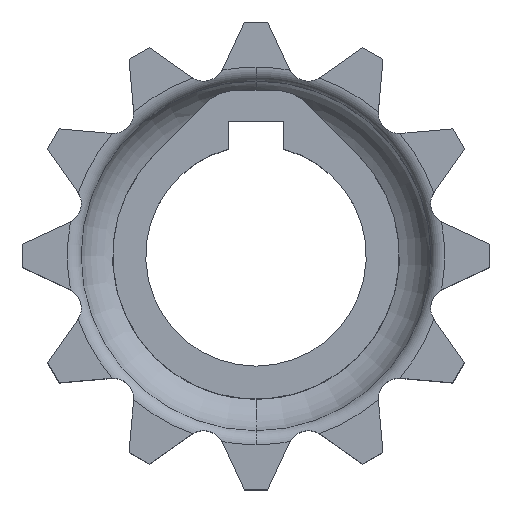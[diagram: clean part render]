
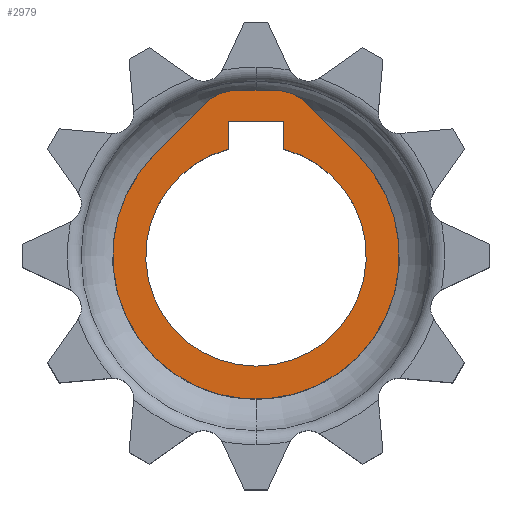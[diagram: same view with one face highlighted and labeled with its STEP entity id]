
A CAD part, top view. The second image highlights one B-rep face of the part: STEP entity #2979.
In plain terms, the highlighted planar face has unit normal (0, 0, 1).
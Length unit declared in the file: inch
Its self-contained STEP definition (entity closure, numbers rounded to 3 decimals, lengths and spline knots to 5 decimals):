
#914=CARTESIAN_POINT('',(-0.0875,0.55,0.325));
#915=DIRECTION('',(0.,0.,1.));
#916=DIRECTION('',(0.,1.,0.));
#917=AXIS2_PLACEMENT_3D('',#914,#915,#916);
#919=DIRECTION('',(-1.,0.,0.));
#920=VECTOR('',#919,0.175);
#921=CARTESIAN_POINT('',(0.0875,0.75,0.325));
#922=LINE('',#921,#920);
#923=CARTESIAN_POINT('',(0.0875,0.55,0.325));
#924=DIRECTION('',(0.,0.,1.));
#925=DIRECTION('',(0.709,0.705,0.));
#926=AXIS2_PLACEMENT_3D('',#923,#924,#925);
#928=DIRECTION('',(-0.705,0.709,0.));
#929=VECTOR('',#928,0.32811);
#930=CARTESIAN_POINT('',(0.46071,0.45852,0.325));
#931=LINE('',#930,#929);
#932=CARTESIAN_POINT('',(0.,0.,0.325));
#933=DIRECTION('',(0.,0.,1.));
#934=DIRECTION('',(-0.709,0.705,0.));
#935=AXIS2_PLACEMENT_3D('',#932,#933,#934);
#937=DIRECTION('',(-0.705,-0.709,0.));
#938=VECTOR('',#937,0.32811);
#939=CARTESIAN_POINT('',(-0.22926,0.69108,0.325));
#940=LINE('',#939,#938);
#941=CARTESIAN_POINT('',(0.,0.,0.325));
#942=DIRECTION('',(0.,0.,1.));
#943=DIRECTION('',(-0.25,0.968,0.));
#944=AXIS2_PLACEMENT_3D('',#941,#942,#943);
#946=DIRECTION('',(0.,1.,0.));
#947=VECTOR('',#946,0.125);
#948=CARTESIAN_POINT('',(0.125,0.48412,0.325));
#949=LINE('',#948,#947);
#950=DIRECTION('',(-1.,0.,0.));
#951=VECTOR('',#950,0.25);
#952=CARTESIAN_POINT('',(0.125,0.60912,0.325));
#953=LINE('',#952,#951);
#954=DIRECTION('',(0.,-1.,0.));
#955=VECTOR('',#954,0.125);
#956=CARTESIAN_POINT('',(-0.125,0.60912,0.325));
#957=LINE('',#956,#955);
#1921=CARTESIAN_POINT('',(-0.0875,0.75,0.325));
#1922=CARTESIAN_POINT('',(-0.22926,0.69108,0.325));
#1923=VERTEX_POINT('',#1921);
#1924=VERTEX_POINT('',#1922);
#1925=CARTESIAN_POINT('',(-0.46071,0.45852,0.325));
#1926=VERTEX_POINT('',#1925);
#1927=CARTESIAN_POINT('',(0.46071,0.45852,0.325));
#1928=VERTEX_POINT('',#1927);
#1929=CARTESIAN_POINT('',(0.22926,0.69108,0.325));
#1930=VERTEX_POINT('',#1929);
#1931=CARTESIAN_POINT('',(0.0875,0.75,0.325));
#1932=VERTEX_POINT('',#1931);
#1961=CARTESIAN_POINT('',(-0.125,0.48412,0.325));
#1962=CARTESIAN_POINT('',(0.125,0.48412,0.325));
#1963=VERTEX_POINT('',#1961);
#1964=VERTEX_POINT('',#1962);
#1965=CARTESIAN_POINT('',(0.125,0.60912,0.325));
#1966=VERTEX_POINT('',#1965);
#1967=CARTESIAN_POINT('',(-0.125,0.60912,0.325));
#1968=VERTEX_POINT('',#1967);
#2956=CARTESIAN_POINT('',(0.,0.,0.325));
#2957=DIRECTION('',(0.,0.,1.));
#2958=DIRECTION('',(1.,0.,0.));
#2959=AXIS2_PLACEMENT_3D('',#2956,#2957,#2958);
#2960=PLANE('',#2959);
#2961=ORIENTED_EDGE('',*,*,#2724,.F.);
#2962=ORIENTED_EDGE('',*,*,#2778,.F.);
#2963=ORIENTED_EDGE('',*,*,#2909,.F.);
#2964=ORIENTED_EDGE('',*,*,#2935,.F.);
#2965=ORIENTED_EDGE('',*,*,#2861,.F.);
#2966=ORIENTED_EDGE('',*,*,#2832,.F.);
#2967=EDGE_LOOP('',(#2961,#2962,#2963,#2964,#2965,#2966));
#2968=FACE_OUTER_BOUND('',#2967,.F.);
#2970=ORIENTED_EDGE('',*,*,#2969,.T.);
#2972=ORIENTED_EDGE('',*,*,#2971,.T.);
#2974=ORIENTED_EDGE('',*,*,#2973,.T.);
#2976=ORIENTED_EDGE('',*,*,#2975,.T.);
#2977=EDGE_LOOP('',(#2970,#2972,#2974,#2976));
#2978=FACE_BOUND('',#2977,.F.);
#2979=ADVANCED_FACE('',(#2968,#2978),#2960,.T.);
#918=CIRCLE('',#917,0.2);
#927=CIRCLE('',#926,0.2);
#936=CIRCLE('',#935,0.65);
#945=CIRCLE('',#944,0.5);
#2724=EDGE_CURVE('',#1923,#1924,#918,.T.);
#2778=EDGE_CURVE('',#1932,#1923,#922,.T.);
#2832=EDGE_CURVE('',#1924,#1926,#940,.T.);
#2861=EDGE_CURVE('',#1926,#1928,#936,.T.);
#2909=EDGE_CURVE('',#1930,#1932,#927,.T.);
#2935=EDGE_CURVE('',#1928,#1930,#931,.T.);
#2969=EDGE_CURVE('',#1963,#1964,#945,.T.);
#2971=EDGE_CURVE('',#1964,#1966,#949,.T.);
#2973=EDGE_CURVE('',#1966,#1968,#953,.T.);
#2975=EDGE_CURVE('',#1968,#1963,#957,.T.);
